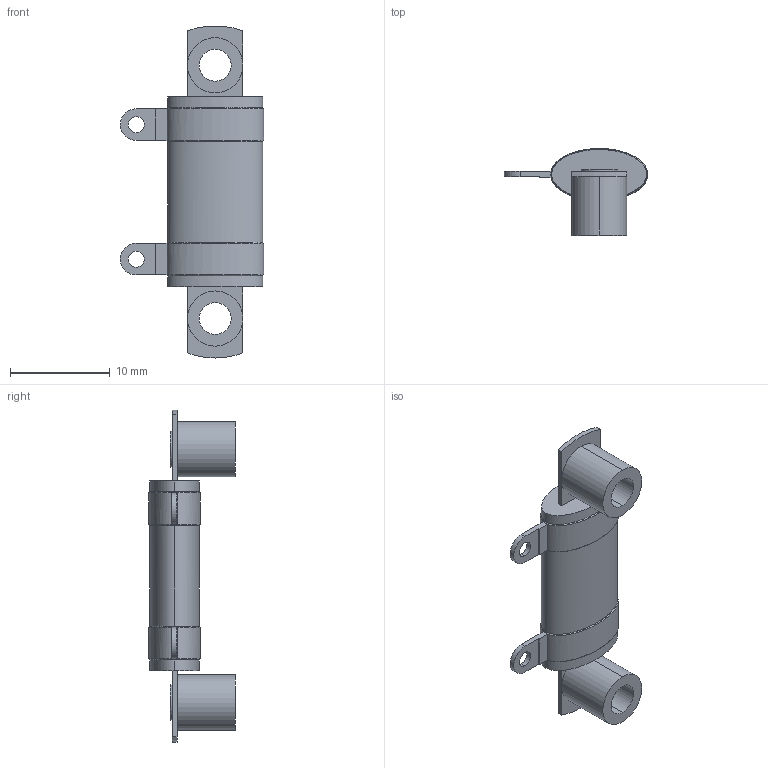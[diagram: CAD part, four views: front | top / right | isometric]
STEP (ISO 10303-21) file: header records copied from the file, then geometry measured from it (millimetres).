
FILE_DESCRIPTION (( 'STEP AP214' ), '1' );
FILE_NAME ('HLM010.STEP', '2014-03-13T13:30:22', ( '' ), ( '' ), 'SwSTEP 2.0', 'SolidWorks 2012', '' );
FILE_SCHEMA (( 'AUTOMOTIVE_DESIGN' ));
Length unit declared in the file: millimetre
Products named in the file (1): HLM010
Bounding box: 14.38 x 8.7 x 33.3 mm (x, y, z)
Volume: 960 mm3; surface area: 1065.3 mm2
Topology: 1 solids, 1 shells, 69 faces, 165 edges, 106 vertices
Faces by surface type: plane 32, cylinder 21, bspline 16
Entity records: 8465 total; most frequent: CARTESIAN_POINT 6305, ORIENTED_EDGE 330, DIRECTION 275, EDGE_CURVE 165, VERTEX_POINT 106, AXIS2_PLACEMENT_3D 100, EDGE_LOOP 85, VECTOR 75
